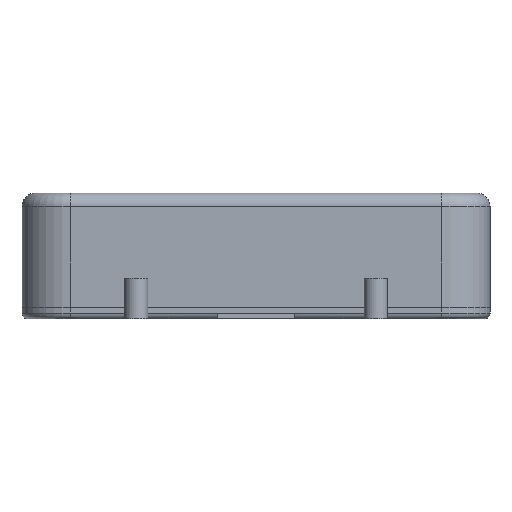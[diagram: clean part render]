
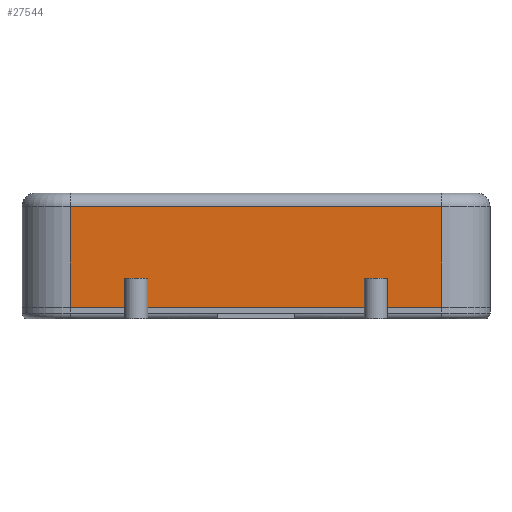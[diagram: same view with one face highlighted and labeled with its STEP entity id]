
A CAD part, front view. The second image highlights one B-rep face of the part: STEP entity #27544.
In plain terms, the highlighted planar face has unit normal (0, -1, 0).
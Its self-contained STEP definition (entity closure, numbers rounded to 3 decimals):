
#950=PLANE('',#28796);
#2426=FACE_OUTER_BOUND('',#4031,.T.);
#4031=EDGE_LOOP('',(#22567,#22568,#22569,#22570,#22571,#22572,#22573,#22574,
#22575,#22576,#22577,#22578));
#6125=LINE('',#46481,#9143);
#6129=LINE('',#46489,#9147);
#6133=LINE('',#46497,#9151);
#6150=LINE('',#46540,#9168);
#6151=LINE('',#46543,#9169);
#6153=LINE('',#46546,#9171);
#6154=LINE('',#46549,#9172);
#6155=LINE('',#46551,#9173);
#6156=LINE('',#46552,#9174);
#6157=LINE('',#46554,#9175);
#6158=LINE('',#46556,#9176);
#6159=LINE('',#46557,#9177);
#9143=VECTOR('',#31791,10.);
#9147=VECTOR('',#31795,10.);
#9151=VECTOR('',#31799,10.);
#9168=VECTOR('',#31832,10.);
#9169=VECTOR('',#31835,10.);
#9171=VECTOR('',#31839,10.);
#9172=VECTOR('',#31842,10.);
#9173=VECTOR('',#31843,10.);
#9174=VECTOR('',#31844,10.);
#9175=VECTOR('',#31845,10.);
#9176=VECTOR('',#31846,10.);
#9177=VECTOR('',#31847,10.);
#13099=VERTEX_POINT('',#46478);
#13100=VERTEX_POINT('',#46480);
#13103=VERTEX_POINT('',#46486);
#13104=VERTEX_POINT('',#46488);
#13107=VERTEX_POINT('',#46494);
#13108=VERTEX_POINT('',#46496);
#13126=VERTEX_POINT('',#46538);
#13127=VERTEX_POINT('',#46542);
#13128=VERTEX_POINT('',#46548);
#13129=VERTEX_POINT('',#46550);
#13130=VERTEX_POINT('',#46553);
#13131=VERTEX_POINT('',#46555);
#16441=EDGE_CURVE('',#13100,#13099,#6125,.T.);
#16445=EDGE_CURVE('',#13104,#13103,#6129,.T.);
#16449=EDGE_CURVE('',#13108,#13107,#6133,.T.);
#16472=EDGE_CURVE('',#13103,#13126,#6150,.T.);
#16473=EDGE_CURVE('',#13127,#13100,#6151,.T.);
#16475=EDGE_CURVE('',#13126,#13127,#6153,.T.);
#16476=EDGE_CURVE('',#13128,#13099,#6154,.T.);
#16477=EDGE_CURVE('',#13129,#13128,#6155,.T.);
#16478=EDGE_CURVE('',#13108,#13129,#6156,.T.);
#16479=EDGE_CURVE('',#13107,#13130,#6157,.T.);
#16480=EDGE_CURVE('',#13130,#13131,#6158,.T.);
#16481=EDGE_CURVE('',#13131,#13104,#6159,.T.);
#22567=ORIENTED_EDGE('',*,*,#16472,.T.);
#22568=ORIENTED_EDGE('',*,*,#16475,.T.);
#22569=ORIENTED_EDGE('',*,*,#16473,.T.);
#22570=ORIENTED_EDGE('',*,*,#16441,.T.);
#22571=ORIENTED_EDGE('',*,*,#16476,.F.);
#22572=ORIENTED_EDGE('',*,*,#16477,.F.);
#22573=ORIENTED_EDGE('',*,*,#16478,.F.);
#22574=ORIENTED_EDGE('',*,*,#16449,.T.);
#22575=ORIENTED_EDGE('',*,*,#16479,.T.);
#22576=ORIENTED_EDGE('',*,*,#16480,.T.);
#22577=ORIENTED_EDGE('',*,*,#16481,.T.);
#22578=ORIENTED_EDGE('',*,*,#16445,.T.);
#27544=ADVANCED_FACE('',(#2426),#950,.T.);
#28796=AXIS2_PLACEMENT_3D('',#46547,#31840,#31841);
#31791=DIRECTION('',(1.,0.,0.));
#31795=DIRECTION('',(1.,0.,0.));
#31799=DIRECTION('',(1.,0.,0.));
#31832=DIRECTION('',(0.,0.,1.));
#31835=DIRECTION('',(0.,0.,-1.));
#31839=DIRECTION('',(1.,0.,0.));
#31840=DIRECTION('center_axis',(0.,-1.,0.));
#31841=DIRECTION('ref_axis',(1.,0.,0.));
#31842=DIRECTION('',(0.,0.,-1.));
#31843=DIRECTION('',(1.,0.,0.));
#31844=DIRECTION('',(0.,0.,1.));
#31845=DIRECTION('',(0.,0.,1.));
#31846=DIRECTION('',(1.,0.,0.));
#31847=DIRECTION('',(0.,0.,-1.));
#46478=CARTESIAN_POINT('',(19.2,-27.5,-6.5));
#46480=CARTESIAN_POINT('',(13.6,-27.5,-6.5));
#46481=CARTESIAN_POINT('',(-24.2,-27.5,-6.5));
#46486=CARTESIAN_POINT('',(11.2,-27.5,-6.5));
#46488=CARTESIAN_POINT('',(-11.2,-27.5,-6.5));
#46489=CARTESIAN_POINT('',(-24.2,-27.5,-6.5));
#46494=CARTESIAN_POINT('',(-13.6,-27.5,-6.5));
#46496=CARTESIAN_POINT('',(-19.2,-27.5,-6.5));
#46497=CARTESIAN_POINT('',(-24.2,-27.5,-6.5));
#46538=CARTESIAN_POINT('',(11.2,-27.5,-3.5));
#46540=CARTESIAN_POINT('',(11.2,-27.5,-6.5));
#46542=CARTESIAN_POINT('',(13.6,-27.5,-3.5));
#46543=CARTESIAN_POINT('',(13.6,-27.5,-6.5));
#46546=CARTESIAN_POINT('',(-5.9,-27.5,-3.5));
#46547=CARTESIAN_POINT('Origin',(-24.2,-27.5,-6.5));
#46548=CARTESIAN_POINT('',(19.2,-27.5,3.9));
#46549=CARTESIAN_POINT('',(19.2,-27.5,-6.5));
#46550=CARTESIAN_POINT('',(-19.2,-27.5,3.9));
#46551=CARTESIAN_POINT('',(-12.1,-27.5,3.9));
#46552=CARTESIAN_POINT('',(-19.2,-27.5,-6.5));
#46553=CARTESIAN_POINT('',(-13.6,-27.5,-3.5));
#46554=CARTESIAN_POINT('',(-13.6,-27.5,-6.5));
#46555=CARTESIAN_POINT('',(-11.2,-27.5,-3.5));
#46556=CARTESIAN_POINT('',(-18.3,-27.5,-3.5));
#46557=CARTESIAN_POINT('',(-11.2,-27.5,-6.5));
